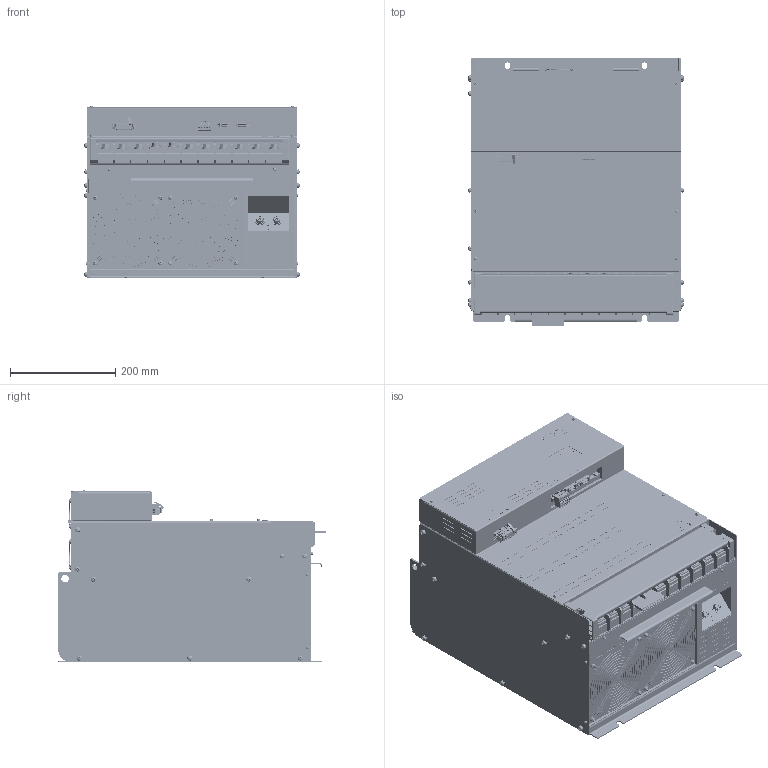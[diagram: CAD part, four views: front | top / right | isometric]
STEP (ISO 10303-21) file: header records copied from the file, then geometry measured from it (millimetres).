
FILE_DESCRIPTION (( 'STEP AP203' ), '1' );
FILE_NAME ('NCR-HC3_553#SE-84811.STEP', '2021-07-08T07:02:23', ( '' ), ( '' ), 'SwSTEP 2.0', 'SolidWorks 2018', '' );
FILE_SCHEMA (( 'CONFIG_CONTROL_DESIGN' ));
Products named in the file (1): NCR-HC3_553#SE-84811
Bounding box: 409.06 x 508 x 327.95 mm (x, y, z)
Volume: 50217187.1 mm3; surface area: 1560638.5 mm2
Topology: 5 solids, 44 shells, 15928 faces, 43392 edges, 27816 vertices
Faces by surface type: plane 9689, cylinder 2750, bspline 1885, cone 1236, torus 278, sphere 90
Entity records: 567050 total; most frequent: CARTESIAN_POINT 171497, ORIENTED_EDGE 86564, DIRECTION 76301, EDGE_CURVE 43282, VERTEX_POINT 27816, LINE 27749, VECTOR 27749, AXIS2_PLACEMENT_3D 24276
